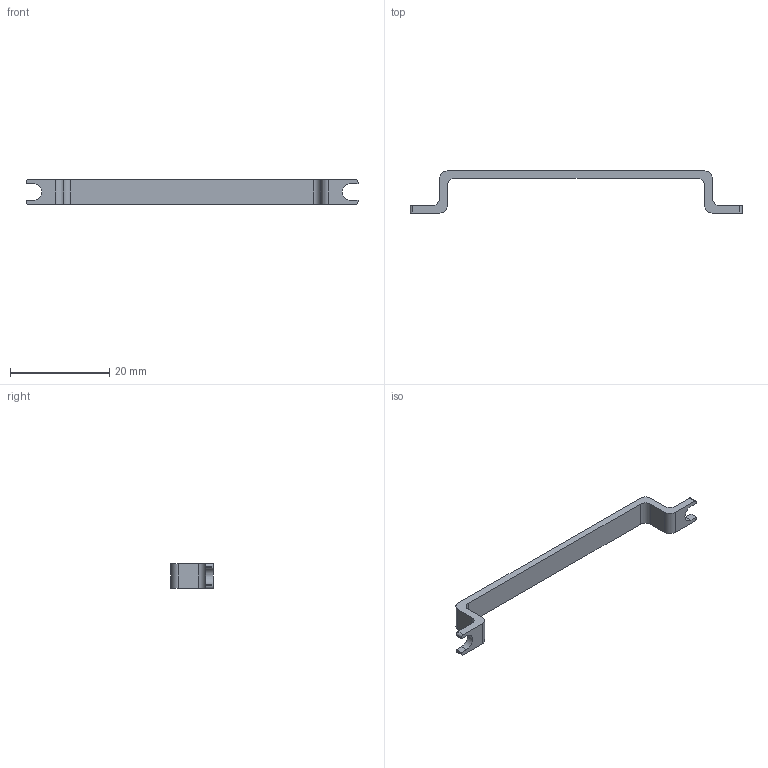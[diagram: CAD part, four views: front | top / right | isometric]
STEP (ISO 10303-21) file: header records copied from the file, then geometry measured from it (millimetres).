
FILE_DESCRIPTION (( 'STEP AP203' ), '1' );
FILE_NAME ('3-70T-001 盄擢盓傅殤.STEP', '2023-10-10T03:51:14', ( '' ), ( '' ), 'SwSTEP 2.0', 'SolidWorks 2021', '' );
FILE_SCHEMA (( 'CONFIG_CONTROL_DESIGN' ));
Length unit declared in the file: millimetre
Products named in the file (1): 3-70T-001 盄擢盓傅殤
Bounding box: 67 x 8.5 x 5 mm (x, y, z)
Volume: 578.3 mm3; surface area: 1016.8 mm2
Topology: 1 solids, 1 shells, 34 faces, 96 edges, 64 vertices
Faces by surface type: plane 20, cylinder 14
Entity records: 1185 total; most frequent: CARTESIAN_POINT 195, DIRECTION 194, ORIENTED_EDGE 192, EDGE_CURVE 96, VECTOR 68, LINE 68, VERTEX_POINT 64, AXIS2_PLACEMENT_3D 63
